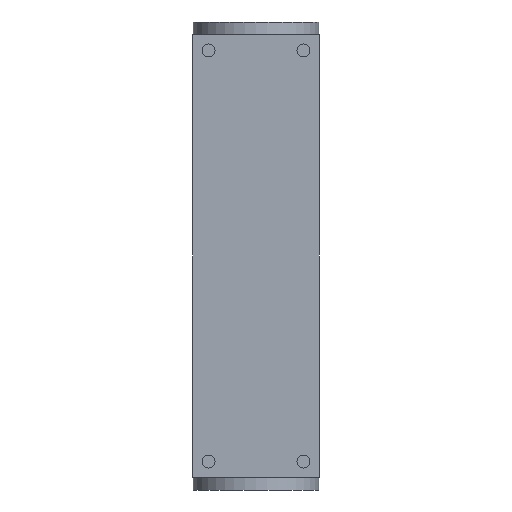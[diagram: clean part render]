
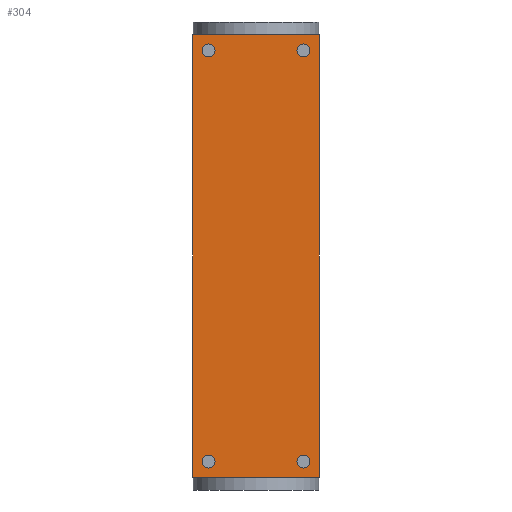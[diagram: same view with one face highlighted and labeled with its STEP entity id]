
A CAD part, front view. The second image highlights one B-rep face of the part: STEP entity #304.
In plain terms, the highlighted planar face has unit normal (0, -1, 0).
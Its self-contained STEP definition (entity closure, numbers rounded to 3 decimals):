
#105=CIRCLE('',#3020,1.025);
#106=CIRCLE('',#3021,1.025);
#107=CIRCLE('',#3022,1.025);
#108=CIRCLE('',#3023,1.025);
#304=ADVANCED_FACE('',(#1002,#1003,#1004,#1005,#1006),#482,.T.);
#482=PLANE('',#3024);
#657=LINE('',#4524,#838);
#658=LINE('',#4534,#839);
#659=LINE('',#4536,#840);
#660=LINE('',#4538,#841);
#838=VECTOR('',#3310,1.);
#839=VECTOR('',#3321,1.);
#840=VECTOR('',#3322,1.);
#841=VECTOR('',#3323,1.);
#1002=FACE_BOUND('',#1113,.T.);
#1003=FACE_BOUND('',#1114,.T.);
#1004=FACE_BOUND('',#1115,.T.);
#1005=FACE_BOUND('',#1116,.T.);
#1006=FACE_BOUND('',#1117,.T.);
#1113=EDGE_LOOP('',(#1498));
#1114=EDGE_LOOP('',(#1499));
#1115=EDGE_LOOP('',(#1500));
#1116=EDGE_LOOP('',(#1501));
#1117=EDGE_LOOP('',(#1502,#1503,#1504,#1505));
#1498=ORIENTED_EDGE('',*,*,#2548,.T.);
#1499=ORIENTED_EDGE('',*,*,#2549,.T.);
#1500=ORIENTED_EDGE('',*,*,#2550,.T.);
#1501=ORIENTED_EDGE('',*,*,#2551,.T.);
#1502=ORIENTED_EDGE('',*,*,#2552,.F.);
#1503=ORIENTED_EDGE('',*,*,#2547,.F.);
#1504=ORIENTED_EDGE('',*,*,#2553,.T.);
#1505=ORIENTED_EDGE('',*,*,#2554,.T.);
#2250=VERTEX_POINT('',#4519);
#2252=VERTEX_POINT('',#4523);
#2253=VERTEX_POINT('',#4527);
#2254=VERTEX_POINT('',#4529);
#2255=VERTEX_POINT('',#4531);
#2256=VERTEX_POINT('',#4533);
#2257=VERTEX_POINT('',#4535);
#2258=VERTEX_POINT('',#4537);
#2547=EDGE_CURVE('',#2252,#2250,#657,.T.);
#2548=EDGE_CURVE('',#2253,#2253,#105,.T.);
#2549=EDGE_CURVE('',#2254,#2254,#106,.T.);
#2550=EDGE_CURVE('',#2255,#2255,#107,.T.);
#2551=EDGE_CURVE('',#2256,#2256,#108,.T.);
#2552=EDGE_CURVE('',#2250,#2257,#658,.T.);
#2553=EDGE_CURVE('',#2252,#2258,#659,.T.);
#2554=EDGE_CURVE('',#2258,#2257,#660,.T.);
#3020=AXIS2_PLACEMENT_3D('',#4526,#3313,#3314);
#3021=AXIS2_PLACEMENT_3D('',#4528,#3315,#3316);
#3022=AXIS2_PLACEMENT_3D('',#4530,#3317,#3318);
#3023=AXIS2_PLACEMENT_3D('',#4532,#3319,#3320);
#3024=AXIS2_PLACEMENT_3D('',#4539,#3324,#3325);
#3310=DIRECTION('',(0.,0.,1.));
#3313=DIRECTION('',(0.,1.,0.));
#3314=DIRECTION('',(0.,0.,1.));
#3315=DIRECTION('',(0.,1.,0.));
#3316=DIRECTION('',(0.,0.,1.));
#3317=DIRECTION('',(0.,1.,0.));
#3318=DIRECTION('',(0.,0.,1.));
#3319=DIRECTION('',(0.,1.,0.));
#3320=DIRECTION('',(0.,0.,1.));
#3321=DIRECTION('',(1.,0.,0.));
#3322=DIRECTION('',(1.,0.,0.));
#3323=DIRECTION('',(0.,0.,1.));
#3324=DIRECTION('',(0.,-1.,0.));
#3325=DIRECTION('',(1.,0.,0.));
#4519=CARTESIAN_POINT('',(-10.,-10.,-2.));
#4523=CARTESIAN_POINT('',(-10.,-10.,-72.));
#4524=CARTESIAN_POINT('',(-10.,-10.,-72.));
#4526=CARTESIAN_POINT('',(7.5,-10.,-69.5));
#4527=CARTESIAN_POINT('',(7.5,-10.,-68.475));
#4528=CARTESIAN_POINT('',(-7.5,-10.,-69.5));
#4529=CARTESIAN_POINT('',(-7.5,-10.,-68.475));
#4530=CARTESIAN_POINT('',(7.5,-10.,-4.5));
#4531=CARTESIAN_POINT('',(7.5,-10.,-3.475));
#4532=CARTESIAN_POINT('',(-7.5,-10.,-4.5));
#4533=CARTESIAN_POINT('',(-7.5,-10.,-3.475));
#4534=CARTESIAN_POINT('',(-10.,-10.,-2.));
#4535=CARTESIAN_POINT('',(10.,-10.,-2.));
#4536=CARTESIAN_POINT('',(-10.,-10.,-72.));
#4537=CARTESIAN_POINT('',(10.,-10.,-72.));
#4538=CARTESIAN_POINT('',(10.,-10.,-72.));
#4539=CARTESIAN_POINT('',(-10.,-10.,-72.));
